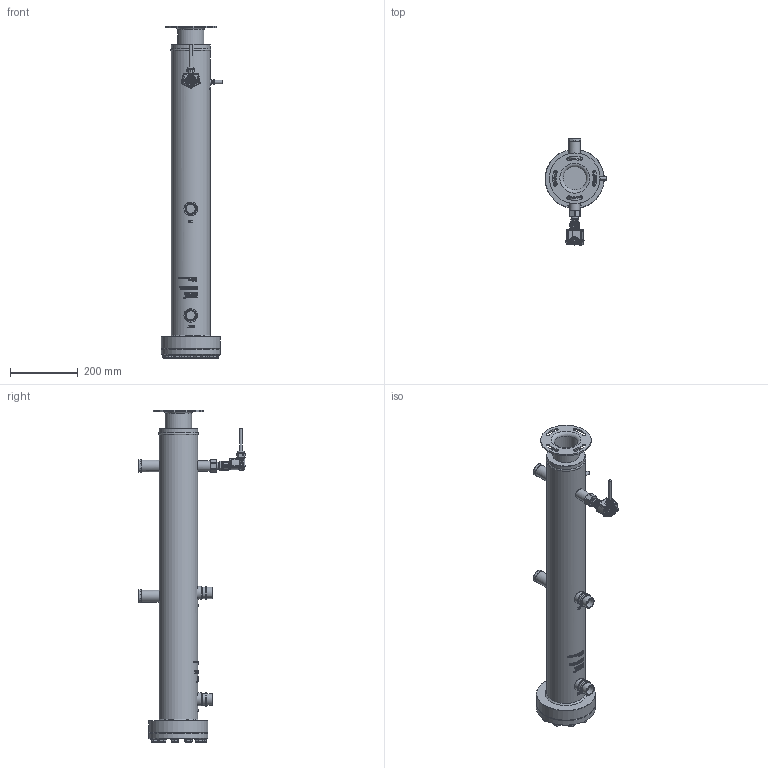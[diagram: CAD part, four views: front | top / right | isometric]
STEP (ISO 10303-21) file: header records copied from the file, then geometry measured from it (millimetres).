
FILE_DESCRIPTION(/* description */ (''),/* implementation_level */ '2;1');
FILE_NAME(/* name */ 'C:\Users\husser\Desktop\BOS4-R-CDH-1AF_AG-Kunde.stp',/* time_stamp */ '2024-02-19T08:37:37+01:00',/* author */ ('Husser'),/* organization */ (''),/* preprocessor_version */ 'ST-DEVELOPER v18.1',/* originating_system */ 'Autodesk Inventor 2021',/* authorisation */ '');
FILE_SCHEMA (('AUTOMOTIVE_DESIGN { 1 0 10303 214 3 1 1 }'));
Products named in the file (1): BOS4-R-CDH-1AF_AG-Kunde
Bounding box: 182.65 x 315.03 x 981.5 mm (x, y, z)
Volume: 10555662.7 mm3; surface area: 527001.6 mm2
Topology: 2 solids, 17 shells, 3710 faces, 9528 edges, 5945 vertices
Faces by surface type: bspline 1339, plane 1045, cylinder 755, torus 253, cone 252, sphere 66
Full cylindrical faces by diameter (mm): 1 x1, 3.25 x1, 5 x1, 5.9 x1, 6.2 x1, 7.65 x1, 9 x1, 10 x2, 11.053 x11, 12 x1, 12.25 x1, 13 x11, 14 x1, 15 x1, 17 x2, 17.2 x11, 18 x1, 19.4 x4, 20 x3, 21.25 x1, 21.34 x1, 22.5 x1, 23 x3, 24 x18, 28.9 x2, 30 x1, 33.7 x4, 35 x2, 38 x2, 40 x2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
Entity records: 164409 total; most frequent: CARTESIAN_POINT 80529, ORIENTED_EDGE 18886, DIRECTION 14204, EDGE_CURVE 9443, VERTEX_POINT 5945, AXIS2_PLACEMENT_3D 5342, EDGE_LOOP 3973, FACE_OUTER_BOUND 3710
